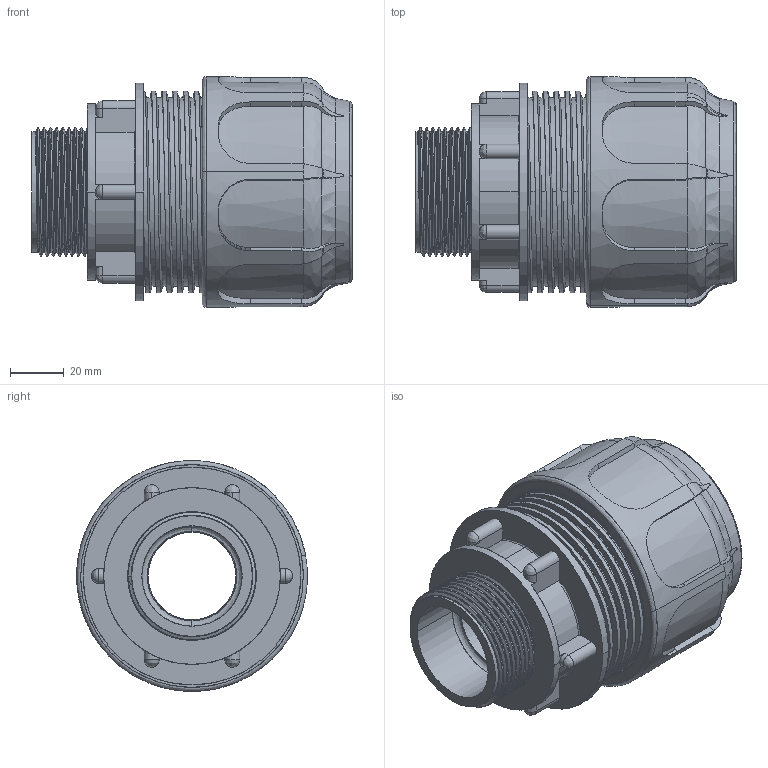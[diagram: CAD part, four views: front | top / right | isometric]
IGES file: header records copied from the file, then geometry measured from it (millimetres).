
Start section: SolidWorks IGES file using analytic representation for surfaces
Global section: file name: P:\DisegniUfficioTecnico\Articoli\ARTICOLI_3D\DISEGNI_STEP_IGS_SITO\02004\02004_IGS\02004.1138.IGS; native system: SolidWorks 2011; preprocessor: SolidWorks 2011; author: giacomo; date: 170522.162350; units: millimetre
Bounding box: 119 x 85.8 x 85.8 mm (x, y, z)
Surface area: 115040.7 mm2 (no closed solid volume)
Topology: 0 solids, 0 shells, 438 faces, 8279 edges, 8255 vertices
Faces by surface type: bspline 259, revolution 179
